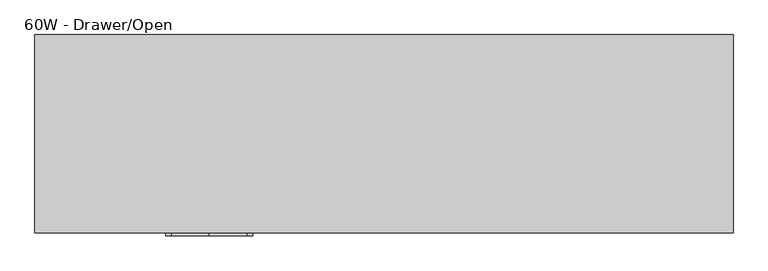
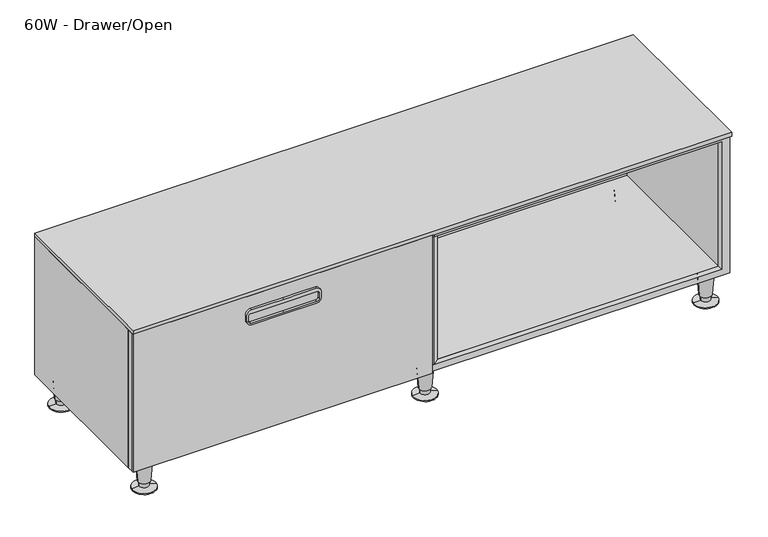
"""IFC4 building model written with IfcOpenShell, lengths in millimetres: furniture geometry, Steelcase - C Scape - Low Storage - 1 High - 60W and 72W : 60W - Drawer/Open."""

from ifc_helpers import new_model, si_unit, point, frame, frame_2d, origin, place, context, project, spatial, polyline, circle_curve, trimmed, segment, composite_curve, outline, extrude, faceted_brep, source, transform, mapped, element, save
from ifc_brep_helpers import plane_surface, cylinder_surface, revolved_surface, advanced_brep


def furniture_60w_drawer_open_c9d80365(model_context):
    return source(origin(), model_context, "Body", "SolidModel", [
        extrude(outline(polyline([(447.0400097, 1217.93), (447.0400097, -305.435), (76.2, -305.435), (76.2, 1217.93), (447.0400097, 1217.93)]), holes=[polyline([(436.118, 1196.5917676), (92.7100024, 1196.5917676), (92.7100024, -283.4630912), (436.118, -283.4630912), (436.118, 1196.5917676)])]), frame((0.0, -426.7186111, 0.0), z_axis=(0.0, 1.0, 0.0), x_axis=(0.0, 0.0, 1.0)), (0.0, 0.0, 1.0), 14.3975487),
        faceted_brep([(-283.4630912, -412.3210624, 92.7100024), (434.0224874, -412.3210624, 92.7100024), (434.0224874, -9.525, 92.7100024), (-283.4630912, -9.525, 92.7100024), (479.1075126, -412.3210624, 92.7100024), (1196.5917676, -412.3210624, 92.7100024), (1196.5917676, -9.525, 92.7100024), (479.1075126, -9.525, 92.7100024), (-305.435, 0.0, 76.2), (1218.565, 0.0, 76.2), (1218.565, -412.3210624, 76.2), (-305.435, -412.3210624, 76.2), (-305.435, -412.3210624, 447.0400097), (-305.435, 0.0, 447.0400097), (1218.565, -412.3210624, 447.0400097), (1196.5917676, -412.3210624, 447.0400097), (-283.4630912, -412.3210624, 447.0400097), (1218.565, 0.0, 447.0400097), (-283.4630912, -9.525, 447.0400097), (434.0224874, -9.525, 447.0400097), (434.0224874, -415.2912402, 447.0400097), (447.6410976, -426.7186111, 447.0400097), (465.4889024, -426.7186111, 447.0400097), (479.1075126, -415.2912402, 447.0400097), (479.1075126, -9.525, 447.0400097), (1196.5917676, -9.525, 447.0400097), (434.0224874, -415.2912402, 92.7100024), (447.6410976, -426.7186111, 92.7100024), (465.4889024, -426.7186111, 92.7100024), (479.1075126, -415.2912402, 92.7100024)], [[[0, 1, 2, 3]], [[4, 5, 6, 7]], [[8, 9, 10, 11]], [[8, 11, 12, 13]], [[12, 11, 10, 14, 15, 5, 4, 1, 0, 16]], [[14, 10, 9, 17]], [[17, 9, 8, 13]], [[13, 12, 16, 18, 19, 20, 21, 22, 23, 24, 25, 15, 14, 17]], [[18, 16, 0, 3]], [[19, 18, 3, 2]], [[20, 19, 2, 1, 26]], [[21, 20, 26, 27]], [[23, 22, 28, 29]], [[24, 23, 29, 4, 7]], [[25, 24, 7, 6]], [[15, 25, 6, 5]], [[29, 28, 27, 26, 1, 4]], [[22, 21, 27, 28]]]),
        extrude(outline(composite_curve([segment(polyline([(412.7499879, 157.4804108), (412.7499879, 75.247655), (412.7499879, -6.9851007)]), True, "CONTINUOUS"), segment(trimmed(circle_curve(frame_2d((400.0499879, -6.9851007)), 12.7), [point((412.7499879, -6.9851007))], [point((400.0499879, -19.6851007))], False, "CARTESIAN"), True, "CONTINUOUS"), segment(polyline([(400.0499879, -19.6851007), (385.445017, -19.6851007)]), True, "CONTINUOUS"), segment(trimmed(circle_curve(frame_2d((385.445017, -6.9851007)), 12.7), [point((385.445017, -19.6851007))], [point((372.745017, -6.9851007))], False, "CARTESIAN"), True, "CONTINUOUS"), segment(polyline([(372.745017, -6.9851007), (372.745017, 75.247655), (372.745017, 157.4804108)]), True, "CONTINUOUS"), segment(trimmed(circle_curve(frame_2d((385.445017, 157.4804108)), 12.7), [point((372.745017, 157.4804108))], [point((385.445017, 170.1804108))], False, "CARTESIAN"), True, "CONTINUOUS"), segment(polyline([(385.445017, 170.1804108), (400.0499879, 170.1804108)]), True, "CONTINUOUS"), segment(trimmed(circle_curve(frame_2d((400.0499879, 157.4804108)), 12.7), [point((400.0499879, 170.1804108))], [point((412.7499879, 157.4804108))], False, "CARTESIAN"), True, "CONTINUOUS")], self_intersect=False), holes=[composite_curve([segment(polyline([(396.6210063, 165.3527985), (383.9209942, 165.3527985)]), True, "CONTINUOUS"), segment(trimmed(circle_curve(frame_2d((383.9209942, 159.0027985)), 6.35), [point((383.9209942, 165.3527985))], [point((377.5709942, 159.0027985))], True, "CARTESIAN"), True, "CONTINUOUS"), segment(polyline([(377.5709942, 159.0027985), (377.5709942, 75.247655), (377.5709942, -8.5074884)]), True, "CONTINUOUS"), segment(trimmed(circle_curve(frame_2d((383.9209942, -8.5074884)), 6.35), [point((377.5709942, -8.5074884))], [point((383.9209942, -14.8574884))], True, "CARTESIAN"), True, "CONTINUOUS"), segment(polyline([(383.9209942, -14.8574884), (396.6210063, -14.8574884)]), True, "CONTINUOUS"), segment(trimmed(circle_curve(frame_2d((396.6210063, -8.5074884)), 6.35), [point((396.6210063, -14.8574884))], [point((402.9710063, -8.5074884))], True, "CARTESIAN"), True, "CONTINUOUS"), segment(polyline([(402.9710063, -8.5074884), (402.9710063, 75.247655), (402.9710063, 159.0027985)]), True, "CONTINUOUS"), segment(trimmed(circle_curve(frame_2d((396.6210063, 159.0027985)), 6.35), [point((402.9710063, 159.0027985))], [point((396.6210063, 165.3527985))], True, "CARTESIAN"), True, "CONTINUOUS")], self_intersect=False)]), frame((0.0, -439.42, 0.0), z_axis=(0.0, 1.0, 0.0), x_axis=(0.0, 0.0, 1.0)), (0.0, 0.0, 1.0), 6.35),
        extrude(outline(polyline([(455.9303101, -426.7186111), (455.9303101, -433.07), (-305.435, -433.07), (-305.435, -426.7186111), (455.9303101, -426.7186111)])), frame((0.0, 0.0, 76.2), z_axis=(0.0, 0.0, 1.0), x_axis=(1.0, 0.0, 0.0)), (0.0, 0.0, 1.0), 370.8400097),
        advanced_brep(
        [(427.4539515, -29.9489775, 0.0), (485.6760485, -38.8569507, 0.0), (456.565, -34.4029641, 0.0), (427.4539515, -29.9489775, 2.5119506), (485.6760485, -38.8569507, 2.5119506), (444.802835, -32.6033544, 5.7545598), (468.327165, -36.2025738, 5.7545598), (444.1140655, -32.4979728, 19.05), (469.0159345, -36.3079555, 19.05), (441.6844786, -32.1262463, 19.05), (471.4455214, -36.6796819, 19.05), (437.7341305, -31.5218435, 76.2), (475.3958695, -37.2840847, 76.2), (456.565, -34.4029641, 76.2)],
        [
            (0, 1, circle_curve(frame((456.565, -34.4029641, 0.0), z_axis=(0.0, 0.0, -1.0), x_axis=(0.0, -1.0, 0.0)), 29.4498071)),
            (1, 2),
            (2, 0),
            (1, 0, circle_curve(frame((456.565, -34.4029641, 0.0), z_axis=(0.0, 0.0, -1.0), x_axis=(0.0, -1.0, 0.0)), 29.4498071)),
            (3, 4, circle_curve(frame((456.565, -34.4029641, 2.5119506), z_axis=(0.0, 0.0, -1.0), x_axis=(0.0, -1.0, 0.0)), 29.4498071)),
            (4, 1),
            (0, 3),
            (4, 3, circle_curve(frame((456.565, -34.4029641, 2.5119506), z_axis=(0.0, 0.0, -1.0), x_axis=(0.0, -1.0, 0.0)), 29.4498071)),
            (5, 6, circle_curve(frame((456.565, -34.4029641, 5.7545598), z_axis=(0.0, 0.0, -1.0), x_axis=(0.0, -1.0, 0.0)), 11.8990387)),
            (6, 4),
            (3, 5),
            (6, 5, circle_curve(frame((456.565, -34.4029641, 5.7545598), z_axis=(0.0, 0.0, -1.0), x_axis=(0.0, -1.0, 0.0)), 11.8990387)),
            (7, 8, circle_curve(frame((456.565, -34.4029641, 19.05), z_axis=(0.0, 0.0, -1.0), x_axis=(0.0, -1.0, 0.0)), 12.5958232)),
            (8, 6),
            (5, 7),
            (8, 7, circle_curve(frame((456.565, -34.4029641, 19.05), z_axis=(0.0, 0.0, -1.0), x_axis=(0.0, -1.0, 0.0)), 12.5958232)),
            (9, 10, circle_curve(frame((456.565, -34.4029641, 19.05), z_axis=(0.0, 0.0, -1.0), x_axis=(0.0, -1.0, 0.0)), 15.0536827)),
            (10, 8),
            (7, 9),
            (10, 9, circle_curve(frame((456.565, -34.4029641, 19.05), z_axis=(0.0, 0.0, -1.0), x_axis=(0.0, -1.0, 0.0)), 15.0536827)),
            (11, 12, circle_curve(frame((456.565, -34.4029641, 76.2), z_axis=(0.0, 0.0, -1.0), x_axis=(0.0, -1.0, 0.0)), 19.05)),
            (12, 10),
            (9, 11),
            (12, 11, circle_curve(frame((456.565, -34.4029641, 76.2), z_axis=(0.0, 0.0, -1.0), x_axis=(0.0, -1.0, 0.0)), 19.05)),
            (13, 12),
            (11, 13),
        ],
        [
            plane_surface(frame((456.565, -34.4029641, 0.0), z_axis=(0.0, 0.0, -1.0), x_axis=(0.0, -1.0, 0.0))),
            cylinder_surface(frame((456.565, -34.4029641, 25.4), z_axis=(0.0, 0.0, 1.0), x_axis=(0.0, -1.0, 0.0)), 29.4498071),
            revolved_surface(polyline([(456.565, -63.8527712, 2.5119506), (456.565, -46.3020028, 5.7545598)]), (456.565, -34.4029641, 25.4), (0.0, 0.0, 1.0)),
            revolved_surface(polyline([(456.565, -46.3020028, 5.7545598), (456.565, -46.9987873, 19.05)]), (456.565, -34.4029641, 25.4), (0.0, 0.0, 1.0)),
            plane_surface(frame((456.565, -34.4029641, 19.05), z_axis=(0.0, 0.0, -1.0), x_axis=(0.0, -1.0, 0.0))),
            revolved_surface(polyline([(456.565, -49.4566468, 19.05), (456.565, -53.4529641, 76.2)]), (456.565, -34.4029641, 25.4), (0.0, 0.0, 1.0)),
            plane_surface(frame((456.565, -34.4029641, 76.2), z_axis=(0.0, 0.0, 1.0), x_axis=(0.0, -1.0, 0.0))),
        ],
        [
            (0, [[1, 2, 3]]),
            (0, [[4, -3, -2]]),
            (1, [[5, 6, -1, 7]]),
            (1, [[8, -7, -4, -6]]),
            (2, [[9, 10, -5, 11]]),
            (2, [[12, -11, -8, -10]]),
            (3, [[13, 14, -9, 15]]),
            (3, [[16, -15, -12, -14]]),
            (4, [[17, 18, -13, 19]]),
            (4, [[20, -19, -16, -18]]),
            (5, [[21, 22, -17, 23]]),
            (5, [[24, -23, -20, -22]]),
            (6, [[25, -21, 26]]),
            (6, [[-26, -24, -25]]),
        ],
    ),
        advanced_brep(
        [(427.4539515, -395.5974102, 0.0), (485.6760485, -404.5053834, 0.0), (456.565, -400.0513968, 0.0), (427.4539515, -395.5974102, 2.5119506), (485.6760485, -404.5053834, 2.5119506), (444.802835, -398.2517871, 5.7545598), (468.327165, -401.8510065, 5.7545598), (444.1140655, -398.1464055, 19.05), (469.0159345, -401.9563882, 19.05), (441.6844786, -397.774679, 19.05), (471.4455214, -402.3281146, 19.05), (437.7341305, -397.1702762, 76.2), (475.3958695, -402.9325174, 76.2), (456.565, -400.0513968, 76.2)],
        [
            (0, 1, circle_curve(frame((456.565, -400.0513968, 0.0), z_axis=(0.0, 0.0, -1.0), x_axis=(0.0, -1.0, 0.0)), 29.4498071)),
            (1, 2),
            (2, 0),
            (1, 0, circle_curve(frame((456.565, -400.0513968, 0.0), z_axis=(0.0, 0.0, -1.0), x_axis=(0.0, -1.0, 0.0)), 29.4498071)),
            (3, 4, circle_curve(frame((456.565, -400.0513968, 2.5119506), z_axis=(0.0, 0.0, -1.0), x_axis=(0.0, -1.0, 0.0)), 29.4498071)),
            (4, 1),
            (0, 3),
            (4, 3, circle_curve(frame((456.565, -400.0513968, 2.5119506), z_axis=(0.0, 0.0, -1.0), x_axis=(0.0, -1.0, 0.0)), 29.4498071)),
            (5, 6, circle_curve(frame((456.565, -400.0513968, 5.7545598), z_axis=(0.0, 0.0, -1.0), x_axis=(0.0, -1.0, 0.0)), 11.8990387)),
            (6, 4),
            (3, 5),
            (6, 5, circle_curve(frame((456.565, -400.0513968, 5.7545598), z_axis=(0.0, 0.0, -1.0), x_axis=(0.0, -1.0, 0.0)), 11.8990387)),
            (7, 8, circle_curve(frame((456.565, -400.0513968, 19.05), z_axis=(0.0, 0.0, -1.0), x_axis=(0.0, -1.0, 0.0)), 12.5958232)),
            (8, 6),
            (5, 7),
            (8, 7, circle_curve(frame((456.565, -400.0513968, 19.05), z_axis=(0.0, 0.0, -1.0), x_axis=(0.0, -1.0, 0.0)), 12.5958232)),
            (9, 10, circle_curve(frame((456.565, -400.0513968, 19.05), z_axis=(0.0, 0.0, -1.0), x_axis=(0.0, -1.0, 0.0)), 15.0536827)),
            (10, 8),
            (7, 9),
            (10, 9, circle_curve(frame((456.565, -400.0513968, 19.05), z_axis=(0.0, 0.0, -1.0), x_axis=(0.0, -1.0, 0.0)), 15.0536827)),
            (11, 12, circle_curve(frame((456.565, -400.0513968, 76.2), z_axis=(0.0, 0.0, -1.0), x_axis=(0.0, -1.0, 0.0)), 19.05)),
            (12, 10),
            (9, 11),
            (12, 11, circle_curve(frame((456.565, -400.0513968, 76.2), z_axis=(0.0, 0.0, -1.0), x_axis=(0.0, -1.0, 0.0)), 19.05)),
            (13, 12),
            (11, 13),
        ],
        [
            plane_surface(frame((456.565, -400.0513968, 0.0), z_axis=(0.0, 0.0, -1.0), x_axis=(0.0, -1.0, 0.0))),
            cylinder_surface(frame((456.565, -400.0513968, 25.4), z_axis=(0.0, 0.0, 1.0), x_axis=(0.0, -1.0, 0.0)), 29.4498071),
            revolved_surface(polyline([(456.565, -429.5012039, 2.5119506), (456.565, -411.9504355, 5.7545598)]), (456.565, -400.0513968, 25.4), (0.0, 0.0, 1.0)),
            revolved_surface(polyline([(456.565, -411.9504355, 5.7545598), (456.565, -412.64722, 19.05)]), (456.565, -400.0513968, 25.4), (0.0, 0.0, 1.0)),
            plane_surface(frame((456.565, -400.0513968, 19.05), z_axis=(0.0, 0.0, -1.0), x_axis=(0.0, -1.0, 0.0))),
            revolved_surface(polyline([(456.565, -415.1050795, 19.05), (456.565, -419.1013968, 76.2)]), (456.565, -400.0513968, 25.4), (0.0, 0.0, 1.0)),
            plane_surface(frame((456.565, -400.0513968, 76.2), z_axis=(0.0, 0.0, 1.0), x_axis=(0.0, -1.0, 0.0))),
        ],
        [
            (0, [[1, 2, 3]]),
            (0, [[4, -3, -2]]),
            (1, [[5, 6, -1, 7]]),
            (1, [[8, -7, -4, -6]]),
            (2, [[9, 10, -5, 11]]),
            (2, [[12, -11, -8, -10]]),
            (3, [[13, 14, -9, 15]]),
            (3, [[16, -15, -12, -14]]),
            (4, [[17, 18, -13, 19]]),
            (4, [[20, -19, -16, -18]]),
            (5, [[21, 22, -17, 23]]),
            (5, [[24, -23, -20, -22]]),
            (6, [[25, -21, 26]]),
            (6, [[-26, -24, -25]]),
        ],
    ),
        advanced_brep(
        [(1171.2185874, -34.4029641, 76.2), (1190.0494568, -37.2840847, 76.2), (1152.3877179, -31.5218435, 76.2), (1186.0991088, -36.6796819, 19.05), (1156.3380659, -32.1262463, 19.05), (1183.6695219, -36.3079555, 19.05), (1158.7676529, -32.4979728, 19.05), (1182.9807524, -36.2025738, 5.7545598), (1159.4564224, -32.6033544, 5.7545598), (1200.3296359, -38.8569507, 2.5119506), (1142.1075389, -29.9489775, 2.5119506), (1200.3296359, -38.8569507, 0.0), (1142.1075389, -29.9489775, 0.0), (1171.2185874, -34.4029641, 0.0)],
        [
            (0, 1),
            (1, 2, circle_curve(frame((1171.2185874, -34.4029641, 76.2), z_axis=(0.0, 0.0, 1.0), x_axis=(0.0, -1.0, 0.0)), 19.05)),
            (2, 0),
            (2, 1, circle_curve(frame((1171.2185874, -34.4029641, 76.2), z_axis=(0.0, 0.0, 1.0), x_axis=(0.0, -1.0, 0.0)), 19.05)),
            (1, 3),
            (3, 4, circle_curve(frame((1171.2185874, -34.4029641, 19.05), z_axis=(0.0, 0.0, 1.0), x_axis=(0.0, -1.0, 0.0)), 15.0536827)),
            (4, 2),
            (4, 3, circle_curve(frame((1171.2185874, -34.4029641, 19.05), z_axis=(0.0, 0.0, 1.0), x_axis=(0.0, -1.0, 0.0)), 15.0536827)),
            (3, 5),
            (5, 6, circle_curve(frame((1171.2185874, -34.4029641, 19.05), z_axis=(0.0, 0.0, 1.0), x_axis=(0.0, -1.0, 0.0)), 12.5958232)),
            (6, 4),
            (6, 5, circle_curve(frame((1171.2185874, -34.4029641, 19.05), z_axis=(0.0, 0.0, 1.0), x_axis=(0.0, -1.0, 0.0)), 12.5958232)),
            (5, 7),
            (7, 8, circle_curve(frame((1171.2185874, -34.4029641, 5.7545598), z_axis=(0.0, 0.0, 1.0), x_axis=(0.0, -1.0, 0.0)), 11.8990387)),
            (8, 6),
            (8, 7, circle_curve(frame((1171.2185874, -34.4029641, 5.7545598), z_axis=(0.0, 0.0, 1.0), x_axis=(0.0, -1.0, 0.0)), 11.8990387)),
            (7, 9),
            (9, 10, circle_curve(frame((1171.2185874, -34.4029641, 2.5119506), z_axis=(0.0, 0.0, 1.0), x_axis=(0.0, -1.0, 0.0)), 29.4498071)),
            (10, 8),
            (10, 9, circle_curve(frame((1171.2185874, -34.4029641, 2.5119506), z_axis=(0.0, 0.0, 1.0), x_axis=(0.0, -1.0, 0.0)), 29.4498071)),
            (9, 11),
            (11, 12, circle_curve(frame((1171.2185874, -34.4029641, 0.0), z_axis=(0.0, 0.0, 1.0), x_axis=(0.0, -1.0, 0.0)), 29.4498071)),
            (12, 10),
            (12, 11, circle_curve(frame((1171.2185874, -34.4029641, 0.0), z_axis=(0.0, 0.0, 1.0), x_axis=(0.0, -1.0, 0.0)), 29.4498071)),
            (11, 13),
            (13, 12),
        ],
        [
            plane_surface(frame((1171.2185874, -34.4029641, 76.2), z_axis=(0.0, 0.0, 1.0), x_axis=(0.0, -1.0, 0.0))),
            revolved_surface(polyline([(1171.2185874, -49.4566468, 19.05), (1171.2185874, -53.4529641, 76.2)]), (1171.2185874, -34.4029641, 25.4), (0.0, 0.0, 1.0)),
            plane_surface(frame((1171.2185874, -34.4029641, 19.05), z_axis=(0.0, 0.0, -1.0), x_axis=(0.0, -1.0, 0.0))),
            revolved_surface(polyline([(1171.2185874, -46.3020028, 5.7545598), (1171.2185874, -46.9987873, 19.05)]), (1171.2185874, -34.4029641, 25.4), (0.0, 0.0, 1.0)),
            revolved_surface(polyline([(1171.2185874, -63.8527712, 2.5119506), (1171.2185874, -46.3020028, 5.7545598)]), (1171.2185874, -34.4029641, 25.4), (0.0, 0.0, 1.0)),
            cylinder_surface(frame((1171.2185874, -34.4029641, 25.4), z_axis=(0.0, 0.0, 1.0), x_axis=(0.0, -1.0, 0.0)), 29.4498071),
            plane_surface(frame((1171.2185874, -34.4029641, 0.0), z_axis=(0.0, 0.0, -1.0), x_axis=(0.0, -1.0, 0.0))),
        ],
        [
            (0, [[1, 2, 3]]),
            (0, [[-3, 4, -1]]),
            (1, [[-2, 5, 6, 7]]),
            (1, [[-4, -7, 8, -5]]),
            (2, [[-6, 9, 10, 11]]),
            (2, [[-8, -11, 12, -9]]),
            (3, [[-10, 13, 14, 15]]),
            (3, [[-12, -15, 16, -13]]),
            (4, [[-14, 17, 18, 19]]),
            (4, [[-16, -19, 20, -17]]),
            (5, [[-18, 21, 22, 23]]),
            (5, [[-20, -23, 24, -21]]),
            (6, [[-22, 25, 26]]),
            (6, [[-24, -26, -25]]),
        ],
    ),
        advanced_brep(
        [(1171.2185874, -400.0513968, 76.2), (1190.0494568, -402.9325174, 76.2), (1152.3877179, -397.1702762, 76.2), (1186.0991088, -402.3281146, 19.05), (1156.3380659, -397.774679, 19.05), (1183.6695219, -401.9563882, 19.05), (1158.7676529, -398.1464055, 19.05), (1182.9807524, -401.8510065, 5.7545598), (1159.4564224, -398.2517871, 5.7545598), (1200.3296359, -404.5053834, 2.5119506), (1142.1075389, -395.5974102, 2.5119506), (1200.3296359, -404.5053834, 0.0), (1142.1075389, -395.5974102, 0.0), (1171.2185874, -400.0513968, 0.0)],
        [
            (0, 1),
            (1, 2, circle_curve(frame((1171.2185874, -400.0513968, 76.2), z_axis=(0.0, 0.0, 1.0), x_axis=(0.0, -1.0, 0.0)), 19.05)),
            (2, 0),
            (2, 1, circle_curve(frame((1171.2185874, -400.0513968, 76.2), z_axis=(0.0, 0.0, 1.0), x_axis=(0.0, -1.0, 0.0)), 19.05)),
            (1, 3),
            (3, 4, circle_curve(frame((1171.2185874, -400.0513968, 19.05), z_axis=(0.0, 0.0, 1.0), x_axis=(0.0, -1.0, 0.0)), 15.0536827)),
            (4, 2),
            (4, 3, circle_curve(frame((1171.2185874, -400.0513968, 19.05), z_axis=(0.0, 0.0, 1.0), x_axis=(0.0, -1.0, 0.0)), 15.0536827)),
            (3, 5),
            (5, 6, circle_curve(frame((1171.2185874, -400.0513968, 19.05), z_axis=(0.0, 0.0, 1.0), x_axis=(0.0, -1.0, 0.0)), 12.5958232)),
            (6, 4),
            (6, 5, circle_curve(frame((1171.2185874, -400.0513968, 19.05), z_axis=(0.0, 0.0, 1.0), x_axis=(0.0, -1.0, 0.0)), 12.5958232)),
            (5, 7),
            (7, 8, circle_curve(frame((1171.2185874, -400.0513968, 5.7545598), z_axis=(0.0, 0.0, 1.0), x_axis=(0.0, -1.0, 0.0)), 11.8990387)),
            (8, 6),
            (8, 7, circle_curve(frame((1171.2185874, -400.0513968, 5.7545598), z_axis=(0.0, 0.0, 1.0), x_axis=(0.0, -1.0, 0.0)), 11.8990387)),
            (7, 9),
            (9, 10, circle_curve(frame((1171.2185874, -400.0513968, 2.5119506), z_axis=(0.0, 0.0, 1.0), x_axis=(0.0, -1.0, 0.0)), 29.4498071)),
            (10, 8),
            (10, 9, circle_curve(frame((1171.2185874, -400.0513968, 2.5119506), z_axis=(0.0, 0.0, 1.0), x_axis=(0.0, -1.0, 0.0)), 29.4498071)),
            (9, 11),
            (11, 12, circle_curve(frame((1171.2185874, -400.0513968, 0.0), z_axis=(0.0, 0.0, 1.0), x_axis=(0.0, -1.0, 0.0)), 29.4498071)),
            (12, 10),
            (12, 11, circle_curve(frame((1171.2185874, -400.0513968, 0.0), z_axis=(0.0, 0.0, 1.0), x_axis=(0.0, -1.0, 0.0)), 29.4498071)),
            (11, 13),
            (13, 12),
        ],
        [
            plane_surface(frame((1171.2185874, -400.0513968, 76.2), z_axis=(0.0, 0.0, 1.0), x_axis=(0.0, -1.0, 0.0))),
            revolved_surface(polyline([(1171.2185874, -415.1050795, 19.05), (1171.2185874, -419.1013968, 76.2)]), (1171.2185874, -400.0513968, 25.4), (0.0, 0.0, 1.0)),
            plane_surface(frame((1171.2185874, -400.0513968, 19.05), z_axis=(0.0, 0.0, -1.0), x_axis=(0.0, -1.0, 0.0))),
            revolved_surface(polyline([(1171.2185874, -411.9504355, 5.7545598), (1171.2185874, -412.64722, 19.05)]), (1171.2185874, -400.0513968, 25.4), (0.0, 0.0, 1.0)),
            revolved_surface(polyline([(1171.2185874, -429.5012039, 2.5119506), (1171.2185874, -411.9504355, 5.7545598)]), (1171.2185874, -400.0513968, 25.4), (0.0, 0.0, 1.0)),
            cylinder_surface(frame((1171.2185874, -400.0513968, 25.4), z_axis=(0.0, 0.0, 1.0), x_axis=(0.0, -1.0, 0.0)), 29.4498071),
            plane_surface(frame((1171.2185874, -400.0513968, 0.0), z_axis=(0.0, 0.0, -1.0), x_axis=(0.0, -1.0, 0.0))),
        ],
        [
            (0, [[1, 2, 3]]),
            (0, [[-3, 4, -1]]),
            (1, [[-2, 5, 6, 7]]),
            (1, [[-4, -7, 8, -5]]),
            (2, [[-6, 9, 10, 11]]),
            (2, [[-8, -11, 12, -9]]),
            (3, [[-10, 13, 14, 15]]),
            (3, [[-12, -15, 16, -13]]),
            (4, [[-14, 17, 18, 19]]),
            (4, [[-16, -19, 20, -17]]),
            (5, [[-18, 21, 22, 23]]),
            (5, [[-20, -23, 24, -21]]),
            (6, [[-22, 25, 26]]),
            (6, [[-24, -26, -25]]),
        ],
    ),
        advanced_brep(
        [(-287.8113721, -395.5974102, 0.0), (-229.5892752, -404.5053834, 0.0), (-258.7003237, -400.0513968, 0.0), (-287.8113721, -395.5974102, 2.5119506), (-229.5892752, -404.5053834, 2.5119506), (-270.4624887, -398.2517871, 5.7545598), (-246.9381586, -401.8510065, 5.7545598), (-271.1512581, -398.1464055, 19.05), (-246.2493892, -401.9563882, 19.05), (-273.5808451, -397.774679, 19.05), (-243.8198022, -402.3281146, 19.05), (-277.5311931, -397.1702762, 76.2), (-239.8694542, -402.9325174, 76.2), (-258.7003237, -400.0513968, 76.2)],
        [
            (0, 1, circle_curve(frame((-258.7003237, -400.0513968, 0.0), z_axis=(0.0, 0.0, -1.0), x_axis=(0.0, -1.0, 0.0)), 29.4498071)),
            (1, 2),
            (2, 0),
            (1, 0, circle_curve(frame((-258.7003237, -400.0513968, 0.0), z_axis=(0.0, 0.0, -1.0), x_axis=(0.0, -1.0, 0.0)), 29.4498071)),
            (3, 4, circle_curve(frame((-258.7003237, -400.0513968, 2.5119506), z_axis=(0.0, 0.0, -1.0), x_axis=(0.0, -1.0, 0.0)), 29.4498071)),
            (4, 1),
            (0, 3),
            (4, 3, circle_curve(frame((-258.7003237, -400.0513968, 2.5119506), z_axis=(0.0, 0.0, -1.0), x_axis=(0.0, -1.0, 0.0)), 29.4498071)),
            (5, 6, circle_curve(frame((-258.7003237, -400.0513968, 5.7545598), z_axis=(0.0, 0.0, -1.0), x_axis=(0.0, -1.0, 0.0)), 11.8990387)),
            (6, 4),
            (3, 5),
            (6, 5, circle_curve(frame((-258.7003237, -400.0513968, 5.7545598), z_axis=(0.0, 0.0, -1.0), x_axis=(0.0, -1.0, 0.0)), 11.8990387)),
            (7, 8, circle_curve(frame((-258.7003237, -400.0513968, 19.05), z_axis=(0.0, 0.0, -1.0), x_axis=(0.0, -1.0, 0.0)), 12.5958232)),
            (8, 6),
            (5, 7),
            (8, 7, circle_curve(frame((-258.7003237, -400.0513968, 19.05), z_axis=(0.0, 0.0, -1.0), x_axis=(0.0, -1.0, 0.0)), 12.5958232)),
            (9, 10, circle_curve(frame((-258.7003237, -400.0513968, 19.05), z_axis=(0.0, 0.0, -1.0), x_axis=(0.0, -1.0, 0.0)), 15.0536827)),
            (10, 8),
            (7, 9),
            (10, 9, circle_curve(frame((-258.7003237, -400.0513968, 19.05), z_axis=(0.0, 0.0, -1.0), x_axis=(0.0, -1.0, 0.0)), 15.0536827)),
            (11, 12, circle_curve(frame((-258.7003237, -400.0513968, 76.2), z_axis=(0.0, 0.0, -1.0), x_axis=(0.0, -1.0, 0.0)), 19.05)),
            (12, 10),
            (9, 11),
            (12, 11, circle_curve(frame((-258.7003237, -400.0513968, 76.2), z_axis=(0.0, 0.0, -1.0), x_axis=(0.0, -1.0, 0.0)), 19.05)),
            (13, 12),
            (11, 13),
        ],
        [
            plane_surface(frame((-258.7003237, -400.0513968, 0.0), z_axis=(0.0, 0.0, -1.0), x_axis=(0.0, -1.0, 0.0))),
            cylinder_surface(frame((-258.7003237, -400.0513968, 25.4), z_axis=(0.0, 0.0, 1.0), x_axis=(0.0, -1.0, 0.0)), 29.4498071),
            revolved_surface(polyline([(-258.7003237, -429.5012039, 2.5119506), (-258.7003237, -411.9504355, 5.7545598)]), (-258.7003237, -400.0513968, 25.4), (0.0, 0.0, 1.0)),
            revolved_surface(polyline([(-258.7003237, -411.9504355, 5.7545598), (-258.7003237, -412.64722, 19.05)]), (-258.7003237, -400.0513968, 25.4), (0.0, 0.0, 1.0)),
            plane_surface(frame((-258.7003237, -400.0513968, 19.05), z_axis=(0.0, 0.0, -1.0), x_axis=(0.0, -1.0, 0.0))),
            revolved_surface(polyline([(-258.7003237, -415.1050795, 19.05), (-258.7003237, -419.1013968, 76.2)]), (-258.7003237, -400.0513968, 25.4), (0.0, 0.0, 1.0)),
            plane_surface(frame((-258.7003237, -400.0513968, 76.2), z_axis=(0.0, 0.0, 1.0), x_axis=(0.0, -1.0, 0.0))),
        ],
        [
            (0, [[1, 2, 3]]),
            (0, [[4, -3, -2]]),
            (1, [[5, 6, -1, 7]]),
            (1, [[8, -7, -4, -6]]),
            (2, [[9, 10, -5, 11]]),
            (2, [[12, -11, -8, -10]]),
            (3, [[13, 14, -9, 15]]),
            (3, [[16, -15, -12, -14]]),
            (4, [[17, 18, -13, 19]]),
            (4, [[20, -19, -16, -18]]),
            (5, [[21, 22, -17, 23]]),
            (5, [[24, -23, -20, -22]]),
            (6, [[25, -21, 26]]),
            (6, [[-26, -24, -25]]),
        ],
    ),
        advanced_brep(
        [(-287.8113721, -29.9489775, 0.0), (-229.5892752, -38.8569507, 0.0), (-258.7003237, -34.4029641, 0.0), (-287.8113721, -29.9489775, 2.5119506), (-229.5892752, -38.8569507, 2.5119506), (-270.4624887, -32.6033544, 5.7545598), (-246.9381586, -36.2025738, 5.7545598), (-271.1512581, -32.4979728, 19.05), (-246.2493892, -36.3079555, 19.05), (-273.5808451, -32.1262463, 19.05), (-243.8198022, -36.6796819, 19.05), (-277.5311931, -31.5218435, 76.2), (-239.8694542, -37.2840847, 76.2), (-258.7003237, -34.4029641, 76.2)],
        [
            (0, 1, circle_curve(frame((-258.7003237, -34.4029641, 0.0), z_axis=(0.0, 0.0, -1.0), x_axis=(0.0, -1.0, 0.0)), 29.4498071)),
            (1, 2),
            (2, 0),
            (1, 0, circle_curve(frame((-258.7003237, -34.4029641, 0.0), z_axis=(0.0, 0.0, -1.0), x_axis=(0.0, -1.0, 0.0)), 29.4498071)),
            (3, 4, circle_curve(frame((-258.7003237, -34.4029641, 2.5119506), z_axis=(0.0, 0.0, -1.0), x_axis=(0.0, -1.0, 0.0)), 29.4498071)),
            (4, 1),
            (0, 3),
            (4, 3, circle_curve(frame((-258.7003237, -34.4029641, 2.5119506), z_axis=(0.0, 0.0, -1.0), x_axis=(0.0, -1.0, 0.0)), 29.4498071)),
            (5, 6, circle_curve(frame((-258.7003237, -34.4029641, 5.7545598), z_axis=(0.0, 0.0, -1.0), x_axis=(0.0, -1.0, 0.0)), 11.8990387)),
            (6, 4),
            (3, 5),
            (6, 5, circle_curve(frame((-258.7003237, -34.4029641, 5.7545598), z_axis=(0.0, 0.0, -1.0), x_axis=(0.0, -1.0, 0.0)), 11.8990387)),
            (7, 8, circle_curve(frame((-258.7003237, -34.4029641, 19.05), z_axis=(0.0, 0.0, -1.0), x_axis=(0.0, -1.0, 0.0)), 12.5958232)),
            (8, 6),
            (5, 7),
            (8, 7, circle_curve(frame((-258.7003237, -34.4029641, 19.05), z_axis=(0.0, 0.0, -1.0), x_axis=(0.0, -1.0, 0.0)), 12.5958232)),
            (9, 10, circle_curve(frame((-258.7003237, -34.4029641, 19.05), z_axis=(0.0, 0.0, -1.0), x_axis=(0.0, -1.0, 0.0)), 15.0536827)),
            (10, 8),
            (7, 9),
            (10, 9, circle_curve(frame((-258.7003237, -34.4029641, 19.05), z_axis=(0.0, 0.0, -1.0), x_axis=(0.0, -1.0, 0.0)), 15.0536827)),
            (11, 12, circle_curve(frame((-258.7003237, -34.4029641, 76.2), z_axis=(0.0, 0.0, -1.0), x_axis=(0.0, -1.0, 0.0)), 19.05)),
            (12, 10),
            (9, 11),
            (12, 11, circle_curve(frame((-258.7003237, -34.4029641, 76.2), z_axis=(0.0, 0.0, -1.0), x_axis=(0.0, -1.0, 0.0)), 19.05)),
            (13, 12),
            (11, 13),
        ],
        [
            plane_surface(frame((-258.7003237, -34.4029641, 0.0), z_axis=(0.0, 0.0, -1.0), x_axis=(0.0, -1.0, 0.0))),
            cylinder_surface(frame((-258.7003237, -34.4029641, 25.4), z_axis=(0.0, 0.0, 1.0), x_axis=(0.0, -1.0, 0.0)), 29.4498071),
            revolved_surface(polyline([(-258.7003237, -63.8527712, 2.5119506), (-258.7003237, -46.3020028, 5.7545598)]), (-258.7003237, -34.4029641, 25.4), (0.0, 0.0, 1.0)),
            revolved_surface(polyline([(-258.7003237, -46.3020028, 5.7545598), (-258.7003237, -46.9987873, 19.05)]), (-258.7003237, -34.4029641, 25.4), (0.0, 0.0, 1.0)),
            plane_surface(frame((-258.7003237, -34.4029641, 19.05), z_axis=(0.0, 0.0, -1.0), x_axis=(0.0, -1.0, 0.0))),
            revolved_surface(polyline([(-258.7003237, -49.4566468, 19.05), (-258.7003237, -53.4529641, 76.2)]), (-258.7003237, -34.4029641, 25.4), (0.0, 0.0, 1.0)),
            plane_surface(frame((-258.7003237, -34.4029641, 76.2), z_axis=(0.0, 0.0, 1.0), x_axis=(0.0, -1.0, 0.0))),
        ],
        [
            (0, [[1, 2, 3]]),
            (0, [[4, -3, -2]]),
            (1, [[5, 6, -1, 7]]),
            (1, [[8, -7, -4, -6]]),
            (2, [[9, 10, -5, 11]]),
            (2, [[12, -11, -8, -10]]),
            (3, [[13, 14, -9, 15]]),
            (3, [[16, -15, -12, -14]]),
            (4, [[17, 18, -13, 19]]),
            (4, [[20, -19, -16, -18]]),
            (5, [[21, 22, -17, 23]]),
            (5, [[24, -23, -20, -22]]),
            (6, [[25, -21, 26]]),
            (6, [[-26, -24, -25]]),
        ],
    ),
        extrude(outline(polyline([(-305.435, 0.0), (1218.565, 0.0), (1218.565, -433.07), (-305.435, -433.07), (-305.435, 0.0)])), frame((0.0, 0.0, 447.0400097), z_axis=(0.0, 0.0, 1.0), x_axis=(1.0, 0.0, 0.0)), (0.0, 0.0, 1.0), 10.1599903),
    ])


if __name__ == "__main__":
    model = new_model("IFC4")
    model_context = context("Model", 3, world=origin())
    ifc_project = project(units=[si_unit("LENGTHUNIT", "METRE", prefix="MILLI")], contexts=[model_context])
    site = spatial("IfcSite", under=ifc_project)
    building = spatial("IfcBuilding", under=site)
    placement = place(None, origin())
    furniture_60w_drawer_open_shape = furniture_60w_drawer_open_c9d80365(model_context)
    element("IfcFurniture", 1, ObjectType="Steelcase - C Scape - Low Storage - 1 High - 60W and 72W : 60W - Drawer/Open", at=placement, inside=building, context=model_context, shape_type="MappedRepresentation", body=[
        mapped(furniture_60w_drawer_open_shape, transform((0.0, 0.0, 0.0), x_axis=(1.0, 0.0, 0.0), y_axis=(0.0, 1.0, 0.0), z_axis=(0.0, 0.0, 1.0))),
    ])
    save(model, "model.ifc")
